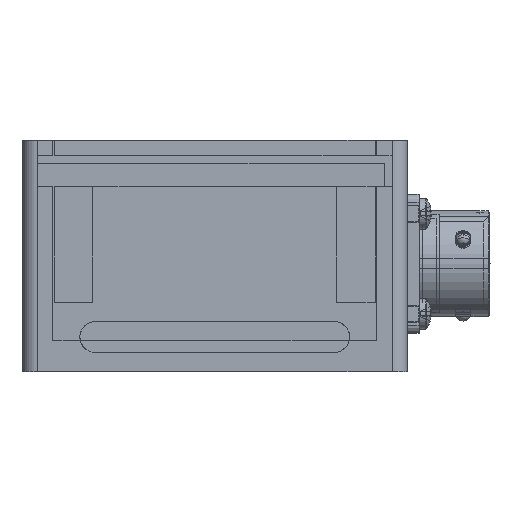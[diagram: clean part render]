
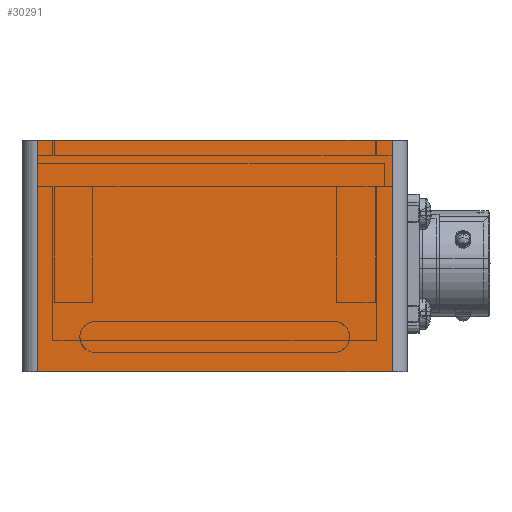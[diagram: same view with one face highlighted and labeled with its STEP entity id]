
A CAD part, front view. The second image highlights one B-rep face of the part: STEP entity #30291.
In plain terms, the highlighted planar face has unit normal (0, -1, 0).
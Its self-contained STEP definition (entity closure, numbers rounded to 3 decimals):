
#1913=LINE('',#53169,#3631);
#1914=LINE('',#53171,#3632);
#1915=LINE('',#53173,#3633);
#1916=LINE('',#53174,#3634);
#3631=VECTOR('',#39904,1000.);
#3632=VECTOR('',#39905,1000.);
#3633=VECTOR('',#39906,1000.);
#3634=VECTOR('',#39907,1000.);
#5976=FACE_OUTER_BOUND('',#7908,.T.);
#7908=EDGE_LOOP('',(#22777,#22778,#22779,#22780));
#12698=VERTEX_POINT('',#53167);
#12699=VERTEX_POINT('',#53168);
#12700=VERTEX_POINT('',#53170);
#12701=VERTEX_POINT('',#53172);
#16377=EDGE_CURVE('',#12698,#12699,#1913,.T.);
#16378=EDGE_CURVE('',#12699,#12700,#1914,.T.);
#16379=EDGE_CURVE('',#12701,#12700,#1915,.T.);
#16380=EDGE_CURVE('',#12701,#12698,#1916,.T.);
#22777=ORIENTED_EDGE('',*,*,#16377,.T.);
#22778=ORIENTED_EDGE('',*,*,#16378,.T.);
#22779=ORIENTED_EDGE('',*,*,#16379,.F.);
#22780=ORIENTED_EDGE('',*,*,#16380,.T.);
#28933=PLANE('',#33187);
#30291=ADVANCED_FACE('',(#5976),#28933,.F.);
#33187=AXIS2_PLACEMENT_3D('',#53166,#39902,#39903);
#39902=DIRECTION('center_axis',(0.,1.,0.));
#39903=DIRECTION('ref_axis',(0.,0.,
1.));
#39904=DIRECTION('',(1.,0.,0.));
#39905=DIRECTION('',(0.,0.,1.));
#39906=DIRECTION('',(1.,0.,0.));
#39907=DIRECTION('',(0.,0.,-1.));
#53166=CARTESIAN_POINT('Origin',(0.,-975.,16.));
#53167=CARTESIAN_POINT('',(-48.,-975.,-14.));
#53168=CARTESIAN_POINT('',(-2.,-975.,-14.));
#53169=CARTESIAN_POINT('',(0.,-975.,-14.));
#53170=CARTESIAN_POINT('',(-2.,-975.,16.));
#53171=CARTESIAN_POINT('',(-2.,-975.,16.));
#53172=CARTESIAN_POINT('',(-48.,-975.,16.));
#53173=CARTESIAN_POINT('',(0.,-975.,16.));
#53174=CARTESIAN_POINT('',(-48.,-975.,16.));
